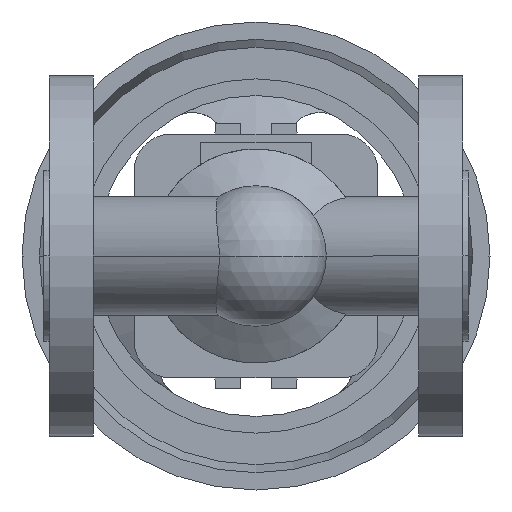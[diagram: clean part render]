
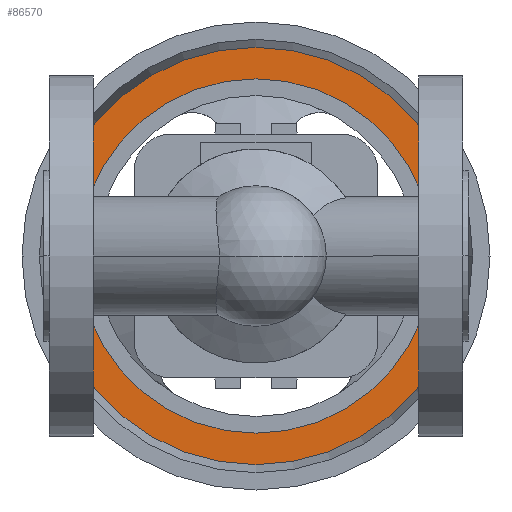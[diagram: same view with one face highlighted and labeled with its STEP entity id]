
A CAD part, front view. The second image highlights one B-rep face of the part: STEP entity #86570.
In plain terms, the highlighted planar face has unit normal (0, -1, 0).
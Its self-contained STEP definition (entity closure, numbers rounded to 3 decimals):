
#86020=CARTESIAN_POINT('',(1.088,234.3,0.));
#86030=VERTEX_POINT('',#86020);
#86110=CARTESIAN_POINT('',(125.912,234.3,0.))
;
#86120=VERTEX_POINT('',#86110);
#86150=CARTESIAN_POINT('',(63.5,234.3,0.));
#86160=DIRECTION('',(0.,1.,0.));
#86170=DIRECTION('',(-1.,0.,0.));
#86180=AXIS2_PLACEMENT_3D('',#86150,#86160,#86170);
#86190=CIRCLE('',#86180,62.412);
#86200=EDGE_CURVE('',#86030,#86120,#86190,.T.);
#86320=CARTESIAN_POINT('',(5.794,234.3,0.))
;
#86330=DIRECTION('',(0.,-1.,0.));
#86340=DIRECTION('',(1.,0.,0.));
#86350=AXIS2_PLACEMENT_3D('',#86320,#86330,#86340);
#86360=PLANE('',#86350);
#86370=EDGE_CURVE('',#86120,#86030,#86190,.T.);
#86380=ORIENTED_EDGE('',*,*,#86370,.F.);
#86390=ORIENTED_EDGE('',*,*,#86200,.F.);
#86400=EDGE_LOOP('',(#86390,#86380));
#86410=FACE_OUTER_BOUND('',#86400,.T.);
#86420=CARTESIAN_POINT('',(63.5,234.3,0.));
#86430=DIRECTION('',(0.,1.,0.));
#86440=DIRECTION('',(-1.,0.,0.));
#86450=AXIS2_PLACEMENT_3D('',#86420,#86430,#86440);
#86460=CIRCLE('',#86450,53.);
#86470=CARTESIAN_POINT('',(10.5,234.3,0.));
#86480=VERTEX_POINT('',#86470);
#86490=CARTESIAN_POINT('',(116.5,234.3,0.));
#86500=VERTEX_POINT('',#86490);
#86510=EDGE_CURVE('',#86480,#86500,#86460,.T.);
#86520=ORIENTED_EDGE('',*,*,#86510,.T.);
#86530=EDGE_CURVE('',#86500,#86480,#86460,.T.);
#86540=ORIENTED_EDGE('',*,*,#86530,.T.);
#86550=EDGE_LOOP('',(#86540,#86520));
#86560=FACE_BOUND('',#86550,.T.);
#86570=ADVANCED_FACE('',(#86410,#86560),#86360,.T.);
